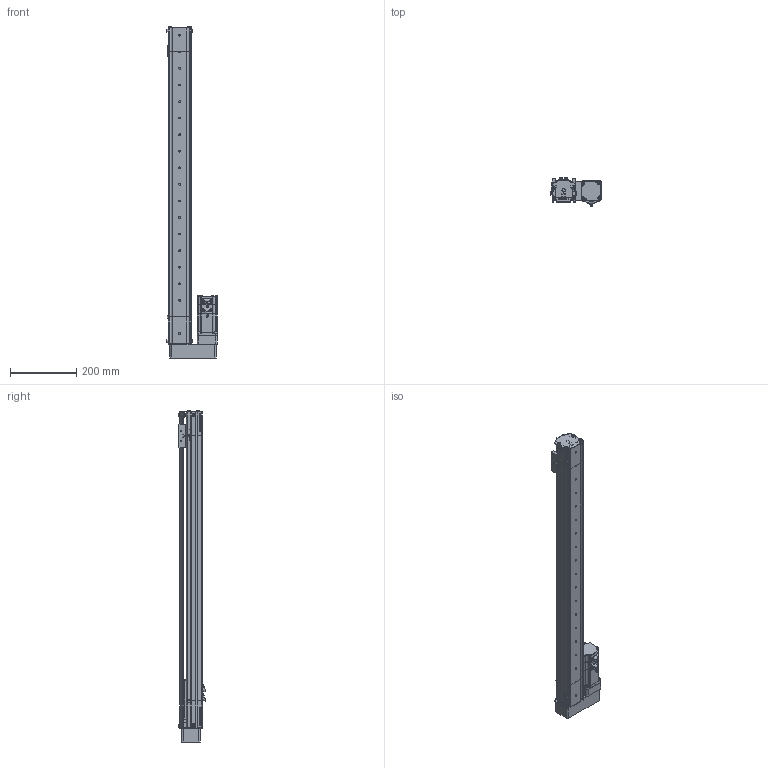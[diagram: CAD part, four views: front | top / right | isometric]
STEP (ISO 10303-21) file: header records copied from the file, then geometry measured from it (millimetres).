
FILE_DESCRIPTION (( 'STEP AP214' ), '1' );
FILE_NAME ('S07 TS BR S800.STEP', '2010-06-29T11:14:53', ( 'Conseil Régional Haute-Normandie' ), ( 'Conseil Régional Haute-Normandie' ), 'SwSTEP 2.0', 'SolidWorks 2010', '' );
FILE_SCHEMA (( 'AUTOMOTIVE_DESIGN' ));
Length unit declared in the file: millimetre
Products named in the file (35): GMB 60 90 310_Default; P1_Default; couvercle S07 course 800 ; arbre + rail Course 800 ; Corp S07 course 800_Default; Course 800_Default; Vis M5 L16-2_Default; VisM3_Default; Conecteur2 60BLDC_Default; P2 90A_Default; Conecteur 60BLDC_Default; Axe 60BLDC_Default; P4_Default; P3 90A_Default; corp couvert coupé_Default; S07 tail (78)_Default; S07 TS BR S800; plaque de bout_Default; T皻e d''axe bas_Default; T皻e d''axe Haut 2_Default; Arbre+rail tail78; vis M5 L16_Default; couvercle S07 (78); Chariot; guide; chariot_Default; couvercle moteur S07 BR(124); corp moteur BR(124)_Default; S07 BR(124)_Default; rail S07 moteur; vis M5 L5_Default; vis M5 L12_Default; Plaque racord_Default; plaque de bout BR_Default; arbre S07 moteur
Assembly tree (61 placements, depth 4):
  S07 TS BR S800
    Course 800_Default
      couvercle S07 course 800 
      arbre + rail Course 800 
      Corp S07 course 800_Default
    S07 BR(124)_Default
      vis M5 L12_Default  x2
      Vis M5 L16-2_Default  x4
      rail S07 moteur
      plaque de bout BR_Default
      corp moteur BR(124)_Default
      vis M5 L5_Default  x2
      GMB 60 90 310_Default
        Axe 60BLDC_Default
        VisM3_Default  x12
        Conecteur 60BLDC_Default
        Conecteur2 60BLDC_Default
        P3 90A_Default
        P1_Default
        P4_Default
        P2 90A_Default
      Plaque racord_Default
      couvercle moteur S07 BR(124)
      arbre S07 moteur
    chariot_Default
      Chariot
      guide
      vis M5 L12_Default  x2
    S07 tail (78)_Default
      vis M5 L16_Default  x2
      couvercle S07 (78)
      vis M5 L12_Default  x8
      Arbre+rail tail78
      T皻e d''axe Haut 2_Default
      plaque de bout_Default
      corp couvert coupé_Default
      T皻e d''axe bas_Default
Bounding box: 152.2 x 83.7 x 1002 mm (x, y, z)
Volume: 2348502.8 mm3; surface area: 830362.4 mm2
Topology: 82 solids, 82 shells, 3368 faces, 8484 edges, 5511 vertices
Faces by surface type: plane 1905, bspline 677, cylinder 601, torus 96, cone 89
Entity records: 158625 total; most frequent: CARTESIAN_POINT 73643, ORIENTED_EDGE 14224, DIRECTION 10983, EDGE_CURVE 7112, VERTEX_POINT 4701, LINE 4665, VECTOR 4665, AXIS2_PLACEMENT_3D 3159
